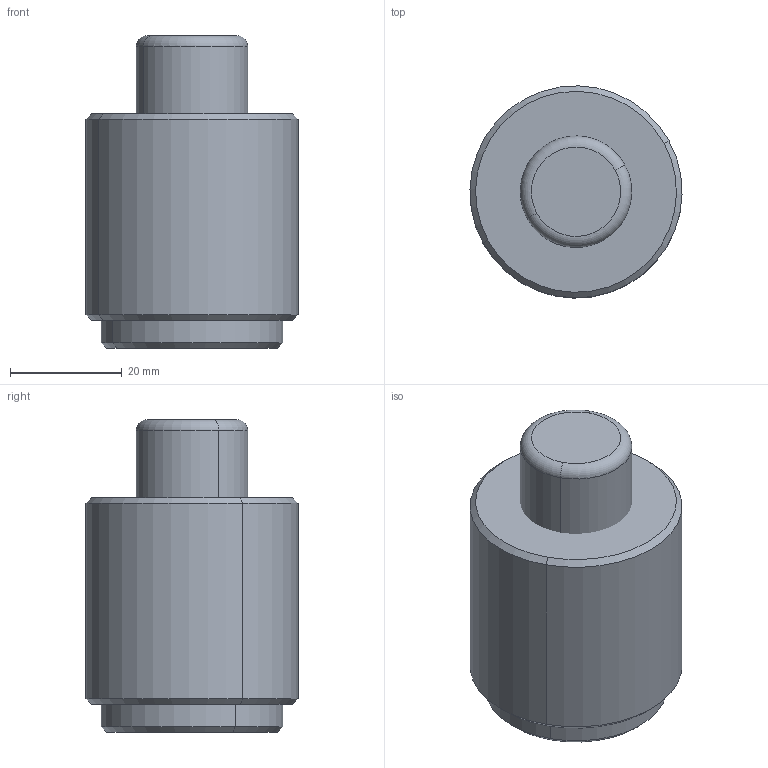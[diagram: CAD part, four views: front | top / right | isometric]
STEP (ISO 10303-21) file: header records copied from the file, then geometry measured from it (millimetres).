
FILE_DESCRIPTION(('CATIA V5 STEP Exchange'),'2;1');
FILE_NAME('W:\CATALOGO GENERAL 2018\FICHEROS CAD\011-TPR\TPR 38.1\TPR 38x13.1.stp','2017-12-04T14:49:03+00:00',('none'),('none'),'CATIA Version 5 Release 17 (IN-10)','CATIA V5 STEP AP203','none');
FILE_SCHEMA(('CONFIG_CONTROL_DESIGN'));
Length unit declared in the file: millimetre
Products named in the file (1): TPR 38x13.1
Assembly tree (2 placements, depth 2):
  TPR 38x13.1
    #56
    #385
Bounding box: 37.99 x 37.99 x 56 mm (x, y, z)
Volume: 58457.7 mm3; surface area: 10078.1 mm2
Topology: 2 solids, 2 shells, 19 faces, 34 edges, 20 vertices
Faces by surface type: cone 6, cylinder 6, plane 5, torus 2
Entity records: 550 total; most frequent: CARTESIAN_POINT 100, DIRECTION 79, ORIENTED_EDGE 68, AXIS2_PLACEMENT_3D 44, EDGE_CURVE 34, CIRCLE 21, EDGE_LOOP 20, VERTEX_POINT 20
